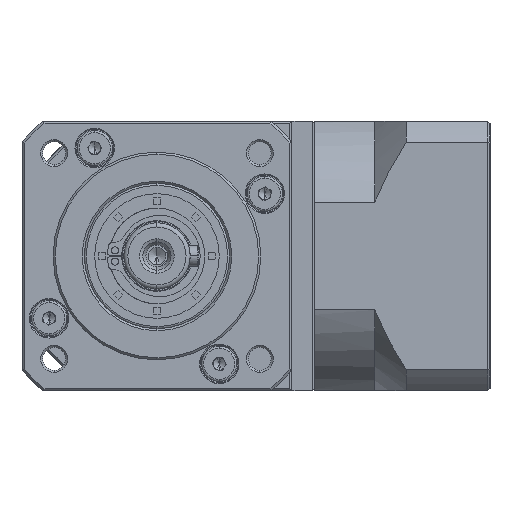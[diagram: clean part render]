
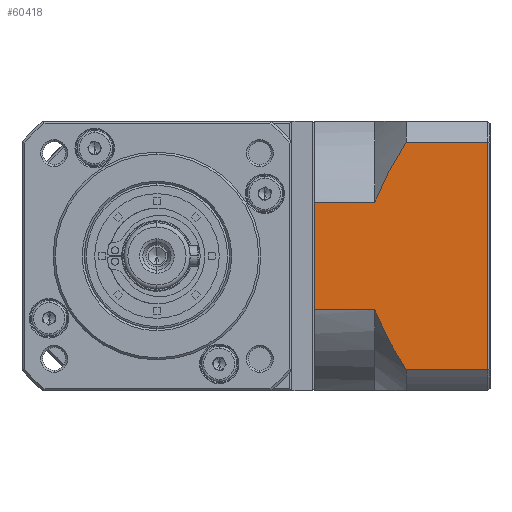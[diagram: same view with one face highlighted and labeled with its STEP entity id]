
A CAD part, left-side view. The second image highlights one B-rep face of the part: STEP entity #60418.
In plain terms, the highlighted planar face has unit normal (-1, 0, 0).
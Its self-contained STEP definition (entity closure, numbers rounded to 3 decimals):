
#5842 = PLANE ( 'NONE',  #55965 ) ;
#7726 = CARTESIAN_POINT ( 'NONE',  ( -9.591, -78.583, -156.586 ) ) ;
#11238 = LINE ( 'NONE', #145524, #144040 ) ;
#12637 = VECTOR ( 'NONE', #60154, 1000. ) ;
#12831 = VECTOR ( 'NONE', #37080, 1000. ) ;
#19259 = EDGE_CURVE ( 'NONE', #157547, #158446, #33820, .T. ) ;
#22532 = EDGE_CURVE ( 'NONE', #95834, #60236, #73739, .T. ) ;
#24047 = EDGE_CURVE ( 'NONE', #144308, #76888, #134626, .T. ) ;
#24773 = ORIENTED_EDGE ( 'NONE', *, *, #70461, .F. ) ;
#26148 = CARTESIAN_POINT ( 'NONE',  ( -9.591, -71.083, -116.21 ) ) ;
#31479 = LINE ( 'NONE', #70566, #99921 ) ;
#33008 = CARTESIAN_POINT ( 'NONE',  ( -9.591, -71.574, -143.471 ) ) ;
#33820 = B_SPLINE_CURVE_WITH_KNOTS ( 'NONE', 3,
 ( #45882, #123012, #33008, #135967, #58822, #148878, #71781, #161721, #84732, #7726 ),
 .UNSPECIFIED., .F., .F.,
 ( 4, 2, 2, 2, 4 ),
 ( 0.101, 0.103, 0.105, 0.109, 0.117 ),
 .UNSPECIFIED. ) ;
#34338 = CARTESIAN_POINT ( 'NONE',  ( -9.591, -71.083, -101.814 ) ) ;
#37080 = DIRECTION ( 'NONE',  ( 0., 0., -1. ) ) ;
#39065 = DIRECTION ( 'NONE',  ( 0., -1., 0. ) ) ;
#39447 = VECTOR ( 'NONE', #82670, 1000. ) ;
#42391 = CARTESIAN_POINT ( 'NONE',  ( -9.591, -56.583, -142.19 ) ) ;
#45882 = CARTESIAN_POINT ( 'NONE',  ( -9.591, -71.083, -142.19 ) ) ;
#50733 = CARTESIAN_POINT ( 'NONE',  ( -9.591, -75.08, -107.624 ) ) ;
#51131 = VERTEX_POINT ( 'NONE', #119432 ) ;
#55187 = CARTESIAN_POINT ( 'NONE',  ( -9.591, -78.583, -156.586 ) ) ;
#55965 = AXIS2_PLACEMENT_3D ( 'NONE', #57507, #147584, #70476 ) ;
#57507 = CARTESIAN_POINT ( 'NONE',  ( -9.591, -98.783, -161.7 ) ) ;
#58822 = CARTESIAN_POINT ( 'NONE',  ( -9.591, -72.373, -145.357 ) ) ;
#60154 = DIRECTION ( 'NONE',  ( 0., -1., 0. ) ) ;
#60236 = VERTEX_POINT ( 'NONE', #104815 ) ;
#60418 = ADVANCED_FACE ( 'NONE', ( #164477 ), #5842, .F. ) ;
#63711 = CARTESIAN_POINT ( 'NONE',  ( -9.591, -72.025, -113.672 ) ) ;
#65486 = ORIENTED_EDGE ( 'NONE', *, *, #165428, .T. ) ;
#66266 = ORIENTED_EDGE ( 'NONE', *, *, #22532, .T. ) ;
#68789 = CARTESIAN_POINT ( 'NONE',  ( -9.591, -71.083, -116.21 ) ) ;
#70461 = EDGE_CURVE ( 'NONE', #144308, #60236, #123381, .T. ) ;
#70476 = DIRECTION ( 'NONE',  ( 0., 1., 0. ) ) ;
#70566 = CARTESIAN_POINT ( 'NONE',  ( -9.591, -71.083, -142.19 ) ) ;
#71313 = ORIENTED_EDGE ( 'NONE', *, *, #24047, .T. ) ;
#71781 = CARTESIAN_POINT ( 'NONE',  ( -9.591, -73.829, -148.423 ) ) ;
#73432 = EDGE_CURVE ( 'NONE', #95834, #158446, #11238, .T. ) ;
#73739 = LINE ( 'NONE', #95580, #39447 ) ;
#76130 = CARTESIAN_POINT ( 'NONE',  ( -9.591, -77.85, -102.952 ) ) ;
#76888 = VERTEX_POINT ( 'NONE', #68789 ) ;
#80659 = EDGE_CURVE ( 'NONE', #51131, #76888, #115557, .T. ) ;
#81312 = VECTOR ( 'NONE', #39065, 1000. ) ;
#82670 = DIRECTION ( 'NONE',  ( 0., 0., 1. ) ) ;
#84732 = CARTESIAN_POINT ( 'NONE',  ( -9.591, -77.121, -154.318 ) ) ;
#88211 = ORIENTED_EDGE ( 'NONE', *, *, #73432, .F. ) ;
#89056 = CARTESIAN_POINT ( 'NONE',  ( -9.591, -77.134, -104.103 ) ) ;
#95580 = CARTESIAN_POINT ( 'NONE',  ( -9.591, -98.283, -161.7 ) ) ;
#95834 = VERTEX_POINT ( 'NONE', #161566 ) ;
#96095 = CARTESIAN_POINT ( 'NONE',  ( -9.591, -78.583, -101.814 ) ) ;
#99198 = ORIENTED_EDGE ( 'NONE', *, *, #80659, .F. ) ;
#99921 = VECTOR ( 'NONE', #160546, 1000. ) ;
#102450 = ORIENTED_EDGE ( 'NONE', *, *, #103754, .F. ) ;
#103754 = EDGE_CURVE ( 'NONE', #157547, #151567, #31479, .T. ) ;
#104815 = CARTESIAN_POINT ( 'NONE',  ( -9.591, -98.283, -101.814 ) ) ;
#111454 = LINE ( 'NONE', #127647, #12831 ) ;
#114955 = CARTESIAN_POINT ( 'NONE',  ( -9.591, -78.583, -101.814 ) ) ;
#115378 = EDGE_LOOP ( 'NONE', ( #88211, #66266, #24773, #71313, #99198, #65486, #102450, #138955 ) ) ;
#115557 = LINE ( 'NONE', #26148, #81312 ) ;
#119432 = CARTESIAN_POINT ( 'NONE',  ( -9.591, -56.583, -116.21 ) ) ;
#123012 = CARTESIAN_POINT ( 'NONE',  ( -9.591, -71.321, -142.833 ) ) ;
#123381 = LINE ( 'NONE', #34338, #12637 ) ;
#127647 = CARTESIAN_POINT ( 'NONE',  ( -9.591, -56.583, -161.7 ) ) ;
#127906 = CARTESIAN_POINT ( 'NONE',  ( -9.591, -75.75, -106.438 ) ) ;
#134626 = B_SPLINE_CURVE_WITH_KNOTS ( 'NONE', 3,
 ( #114955, #76130, #89056, #127906, #50733, #140883, #63711, #153719 ),
 .UNSPECIFIED., .F., .F.,
 ( 4, 2, 2, 4 ),
 ( 0.058, 0.062, 0.066, 0.074 ),
 .UNSPECIFIED. ) ;
#135967 = CARTESIAN_POINT ( 'NONE',  ( -9.591, -72.099, -144.733 ) ) ;
#138955 = ORIENTED_EDGE ( 'NONE', *, *, #19259, .T. ) ;
#140883 = CARTESIAN_POINT ( 'NONE',  ( -9.591, -73.17, -111.22 ) ) ;
#144040 = VECTOR ( 'NONE', #158410, 1000. ) ;
#144308 = VERTEX_POINT ( 'NONE', #96095 ) ;
#145524 = CARTESIAN_POINT ( 'NONE',  ( -9.591, -71.083, -156.586 ) ) ;
#147584 = DIRECTION ( 'NONE',  ( 1., 0., 0. ) ) ;
#148878 = CARTESIAN_POINT ( 'NONE',  ( -9.591, -73.224, -147.211 ) ) ;
#151567 = VERTEX_POINT ( 'NONE', #42391 ) ;
#153719 = CARTESIAN_POINT ( 'NONE',  ( -9.591, -71.083, -116.21 ) ) ;
#156817 = CARTESIAN_POINT ( 'NONE',  ( -9.591, -71.083, -142.19 ) ) ;
#157547 = VERTEX_POINT ( 'NONE', #156817 ) ;
#158410 = DIRECTION ( 'NONE',  ( 0., 1., 0. ) ) ;
#158446 = VERTEX_POINT ( 'NONE', #55187 ) ;
#160546 = DIRECTION ( 'NONE',  ( 0., 1., 0. ) ) ;
#161566 = CARTESIAN_POINT ( 'NONE',  ( -9.591, -98.283, -156.586 ) ) ;
#161721 = CARTESIAN_POINT ( 'NONE',  ( -9.591, -75.734, -152.004 ) ) ;
#164477 = FACE_OUTER_BOUND ( 'NONE', #115378, .T. ) ;
#165428 = EDGE_CURVE ( 'NONE', #51131, #151567, #111454, .T. ) ;
